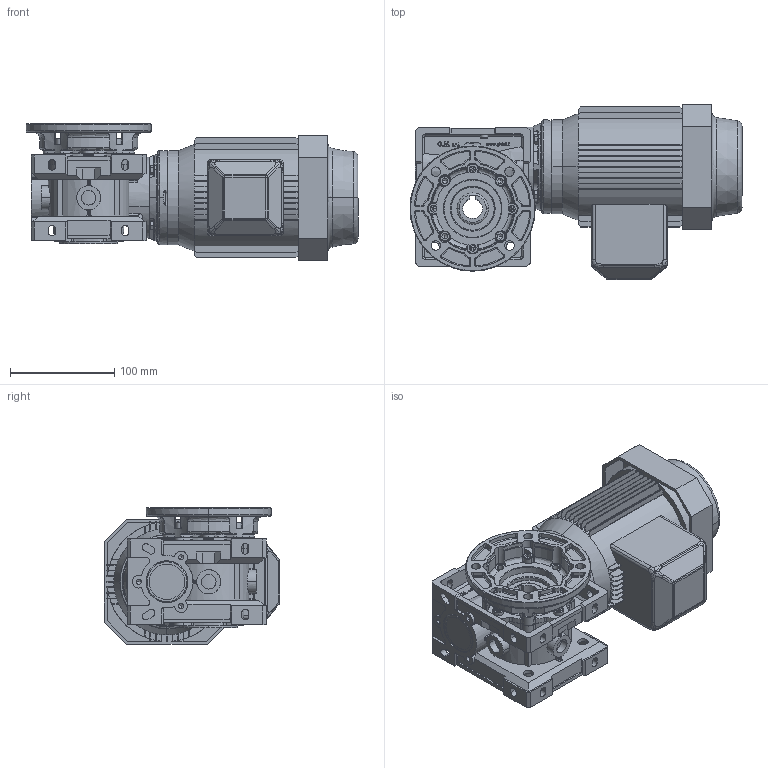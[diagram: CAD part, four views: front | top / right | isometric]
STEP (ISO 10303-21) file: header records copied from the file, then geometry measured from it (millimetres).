
FILE_DESCRIPTION((''),'2;1');
FILE_NAME('F:\Ghirri\3D\MV_V40\MVFU40_B14-63.stp','2005-06-15T16:27:00',('Administrator'),(''),'Autodesk Inventor 9','Autodesk Inventor 9','');
FILE_SCHEMA(('AUTOMOTIVE_DESIGN { 1 0 10303 214 1 1 1 1 }'));
Length unit declared in the file: millimetre
Products named in the file (17): MVFU40_B14-63; 4004001-A0; 4004004-A0; TCCE-6X16-ribassata; 4004008-A0; UNI-ISO 6194-1 (4) Tipo4 30 x  42 x  7; Capp-40-7; Guarnizione-tappo-3-8-gas; Tappo-3-8-gas-nero; UNI-ISO 6194-1 (4) Tipo4 25 x  47 x  7; motori B14 63; FU_MV40; UNI 5931  (Filetto regolare) M 6 x  16; FM-40-50-D=90; UNI 5739  (Filetto regolare) M5 x 20
Assembly tree (26 placements, depth 3):
  MVFU40_B14-63
    4004001-A0
    4004004-A0
    TCCE-6X16-ribassata  x4
    4004008-A0
    UNI-ISO 6194-1 (4) Tipo4 30 x  42 x  7  x2
    Capp-40-7
    Guarnizione-tappo-3-8-gas
    Tappo-3-8-gas-nero
    UNI-ISO 6194-1 (4) Tipo4 25 x  47 x  7
    motori B14 63
    FU_MV40
      FU_MV40
      UNI 5931  (Filetto regolare) M 6 x  16  x4
    FM-40-50-D=90
      FM-40-50-D=90
      UNI 5739  (Filetto regolare) M5 x 20  x4
Bounding box: 318 x 168 x 131 mm (x, y, z)
Volume: 2620645.7 mm3; surface area: 401079.7 mm2
Topology: 24 solids, 24 shells, 3491 faces, 9258 edges, 5891 vertices
Faces by surface type: plane 1224, cylinder 1046, bspline 833, cone 294, torus 80, sphere 14
Entity records: 122489 total; most frequent: CARTESIAN_POINT 42734, ORIENTED_EDGE 17286, DIRECTION 16118, EDGE_CURVE 8643, AXIS2_PLACEMENT_3D 5923, VERTEX_POINT 5551, VECTOR 4272, LINE 4272
